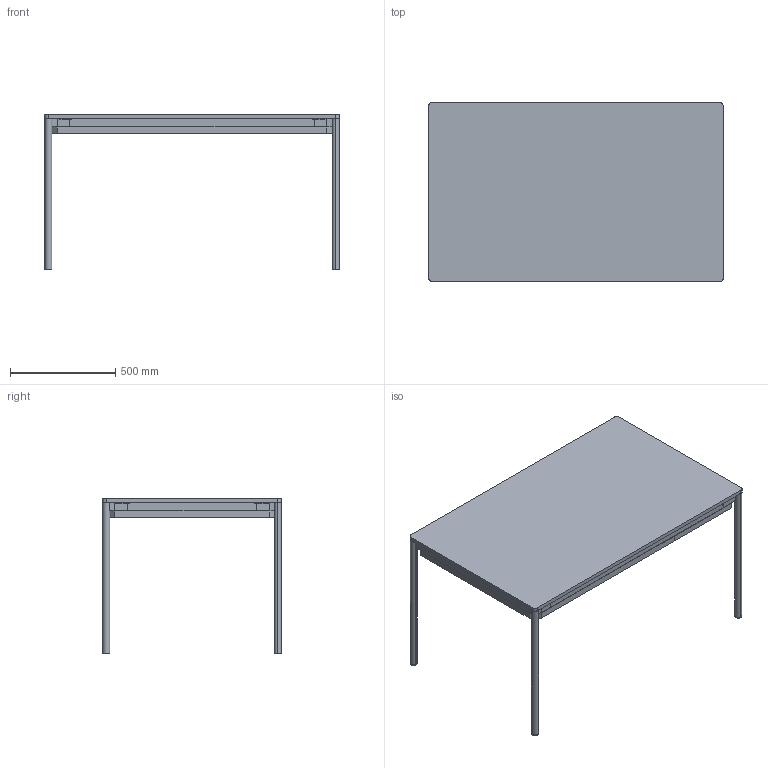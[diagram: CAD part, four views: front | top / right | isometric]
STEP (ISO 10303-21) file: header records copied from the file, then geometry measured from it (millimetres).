
FILE_DESCRIPTION(/* description */ (''),/* implementation_level */ '2;1');
FILE_NAME(/* name */ 'Pieza Dining table (85 x 140 cm)',/* time_stamp */ '2020-02-25T08:23:53+01:00',/* author */ (''),/* organization */ (''),/* preprocessor_version */ 'ST-DEVELOPER v15',/* originating_system */ '',/* authorisation */ '');
FILE_SCHEMA (('AUTOMOTIVE_DESIGN'));
Length unit declared in the file: millimetre
Products named in the file (1): Document
Bounding box: 1400 x 850 x 740 mm (x, y, z)
Volume: 24542148.9 mm3; surface area: 4286727.5 mm2
Topology: 25 solids, 29 shells, 614 faces, 1514 edges, 986 vertices
Faces by surface type: bspline 364, plane 250
Entity records: 29099 total; most frequent: CARTESIAN_POINT 19861, ORIENTED_EDGE 2896, EDGE_CURVE 1514, VERTEX_POINT 986, B_SPLINE_CURVE_WITH_KNOTS 808, EDGE_LOOP 774, ADVANCED_FACE 614, FACE_OUTER_BOUND 614
